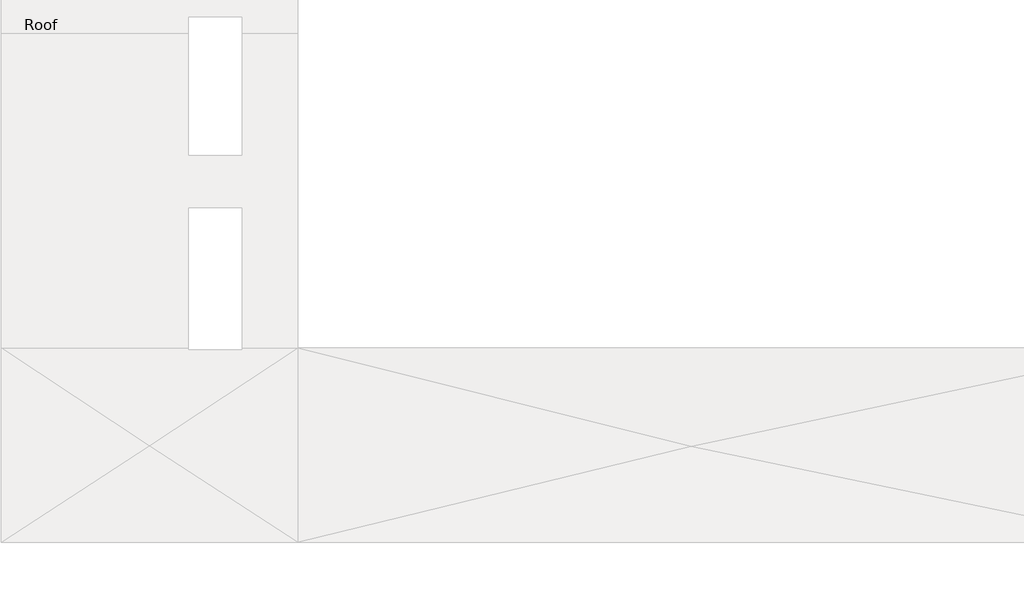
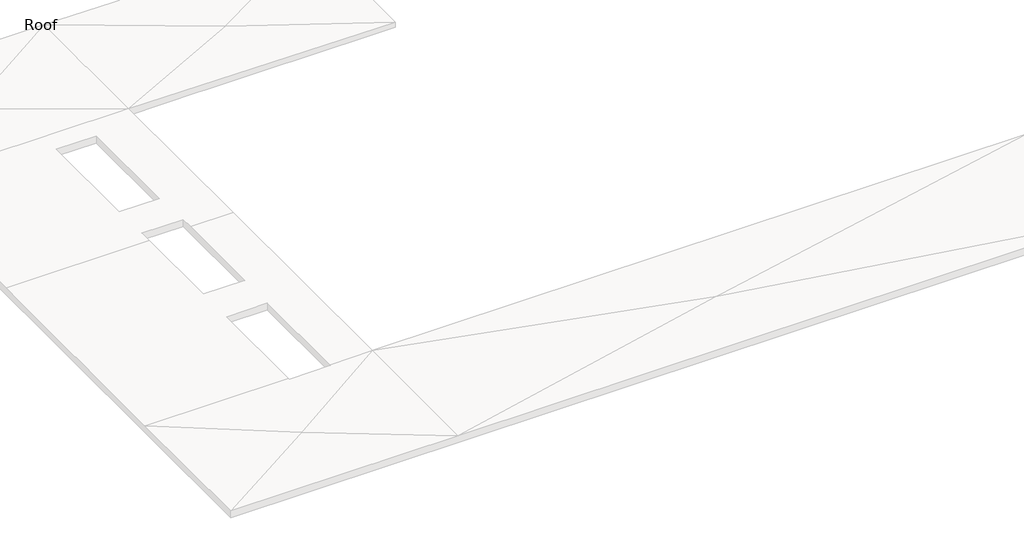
# One storey, part 3 of 7: 17 beams.
"""IFC4 building model written with IfcOpenShell, lengths in millimetres."""

from ifc_helpers import new_model, si_unit, point, frame, frame_2d, origin, place, context, project, spatial, polyline, circle_curve, trimmed, segment, composite_curve, outline, extrude, element, save
from ifc_brep_helpers import plane_surface, revolved_surface, advanced_brep

model = new_model("IFC4")

# Units and contexts
model_context = context("Model", 3, world=origin())
ifc_project = project(units=[si_unit("LENGTHUNIT", "METRE", prefix="MILLI")], contexts=[model_context])

# Site, building, storey
site = spatial("IfcSite", under=ifc_project)
building = spatial("IfcBuilding", under=site)
storey = spatial("IfcBuildingStorey", under=building, Name="Roof", Elevation=11400.0)

# Beams
placement = place(None, origin())
element("IfcBeam", 1, ObjectType="M_Concrete-Rectangular Beam : 400 x 800mm", at=placement, inside=storey, context=model_context, shape_type="AdvancedBrep", body=[
    advanced_brep(
    [(554.8005584, -1310.2837394, 10600.0), (554.8005584, -1310.2837394, 11000.0), (554.8005584, -1213.3613801, 11000.0), (554.8005584, 329.7386199, 11000.0), (554.8005584, 329.7386199, 10600.0), (554.8005584, -1213.3613801, 10600.0), (954.8005584, 426.6609793, 10600.0), (954.8005584, -1213.3613801, 10600.0), (954.8005584, -1310.2837394, 10600.0), (651.7229178, 329.7386199, 10600.0), (954.8005584, 426.6609793, 11000.0), (954.8005584, -1213.3613801, 11000.0), (954.8005584, -1310.2837394, 11000.0), (651.7229178, 329.7386199, 11000.0)],
    [
        (0, 1),
        (1, 2),
        (2, 3),
        (3, 4),
        (4, 5),
        (5, 0),
        (6, 7),
        (7, 8),
        (8, 0, circle_curve(frame((754.8005584, -1413.3613801, 10600.0), z_axis=(0.0, 0.0, 1.0), x_axis=(-1.0, 0.0, 0.0)), 225.0)),
        (4, 9),
        (9, 6, circle_curve(frame((754.8005584, 529.7386199, 10600.0), z_axis=(0.0, 0.0, 1.0), x_axis=(-1.0, 0.0, 0.0)), 225.0)),
        (6, 10),
        (10, 11),
        (11, 12),
        (12, 8),
        (9, 13),
        (13, 10, circle_curve(frame((754.8005584, 529.7386199, 11000.0), z_axis=(0.0, 0.0, 1.0), x_axis=(-1.0, 0.0, 0.0)), 225.0)),
        (12, 1, circle_curve(frame((754.8005584, -1413.3613801, 11000.0), z_axis=(0.0, 0.0, 1.0), x_axis=(-1.0, 0.0, 0.0)), 225.0)),
        (13, 3),
    ],
    [
        plane_surface(frame((554.8005584, -1175.6613801, 11000.0), z_axis=(-1.0, 0.0, 0.0), x_axis=(0.0, 0.0, -1.0))),
        plane_surface(frame((754.8005584, -1175.6613801, 10600.0), z_axis=(0.0, 0.0, -1.0), x_axis=(1.0, 0.0, 0.0))),
        plane_surface(frame((954.8005584, -1175.6613801, 11000.0), z_axis=(1.0, 0.0, 0.0), x_axis=(0.0, 0.0, 1.0))),
        revolved_surface(polyline([(529.8005584, 529.7386199, 11000.0), (529.8005584, 529.7386199, 10600.0)]), (754.8005584, 529.7386199, 7600.0), (0.0, 0.0, 1.0)),
        revolved_surface(polyline([(529.8005584, -1413.3613801, 11000.0), (529.8005584, -1413.3613801, 10600.0)]), (754.8005584, -1413.3613801, 7600.0), (0.0, 0.0, 1.0)),
        plane_surface(frame((27511.8999097, 22114.0407562, 11000.0), z_axis=(0.0, 0.0, 1.0), x_axis=(0.0, -1.0, 0.0))),
        plane_surface(frame((-1649.0994416, 329.7386199, 11000.0), z_axis=(0.0, 1.0, 0.0), x_axis=(0.0, 0.0, 1.0))),
    ],
    [
        (0, [[1, 2, 3, 4, 5, 6]]),
        (1, [[7, 8, 9, -6, -5, 10, 11]]),
        (2, [[-8, -7, 12, 13, 14, 15]]),
        (3, [[-12, -11, 16, 17]]),
        (4, [[-9, -15, 18, -1]]),
        (5, [[-14, -13, -17, 19, -3, -2, -18]]),
        (6, [[-4, -19, -16, -10]]),
    ],
),
])
element("IfcBeam", 2, ObjectType="M_Concrete-Rectangular Beam : 400 x 800mm", at=placement, inside=storey, context=model_context, shape_type="AdvancedBrep", body=[
    advanced_brep(
    [(554.8005584, -1516.4390207, 10600.0), (554.8005584, -1613.3613801, 10600.0), (554.8005584, -5569.4613801, 10600.0), (554.8005584, -5666.3837394, 10600.0), (554.8005584, -5666.3837394, 11000.0), (554.8005584, -5569.4613801, 11000.0), (554.8005584, -1613.3613801, 11000.0), (554.8005584, -1516.4390207, 11000.0), (954.8005584, -5666.3837394, 10600.0), (857.878199, -1613.3613801, 10600.0), (954.8005584, -1613.3613801, 10600.0), (954.8005584, -1613.3613801, 11000.0), (954.8005584, -5666.3837394, 11000.0), (857.878199, -1613.3613801, 11000.0)],
    [
        (0, 1),
        (1, 2),
        (2, 3),
        (3, 4),
        (4, 5),
        (5, 6),
        (6, 7),
        (7, 0),
        (8, 3, circle_curve(frame((754.8005584, -5769.4613801, 10600.0), z_axis=(0.0, 0.0, 1.0), x_axis=(-1.0, 0.0, 0.0)), 225.0)),
        (0, 9, circle_curve(frame((754.8005584, -1413.3613801, 10600.0), z_axis=(0.0, 0.0, 1.0), x_axis=(-1.0, 0.0, 0.0)), 225.0)),
        (9, 10),
        (10, 8),
        (10, 11),
        (11, 12),
        (12, 8),
        (12, 4, circle_curve(frame((754.8005584, -5769.4613801, 11000.0), z_axis=(0.0, 0.0, 1.0), x_axis=(-1.0, 0.0, 0.0)), 225.0)),
        (7, 13, circle_curve(frame((754.8005584, -1413.3613801, 11000.0), z_axis=(0.0, 0.0, 1.0), x_axis=(-1.0, 0.0, 0.0)), 225.0)),
        (13, 9),
        (13, 11),
    ],
    [
        plane_surface(frame((554.8005584, -5531.7613801, 11000.0), z_axis=(-1.0, 0.0, 0.0), x_axis=(0.0, 0.0, -1.0))),
        plane_surface(frame((754.8005584, -5531.7613801, 10600.0), z_axis=(0.0, 0.0, -1.0), x_axis=(1.0, 0.0, 0.0))),
        plane_surface(frame((954.8005584, -5531.7613801, 11000.0), z_axis=(1.0, 0.0, 0.0), x_axis=(0.0, 0.0, 1.0))),
        revolved_surface(polyline([(529.8005584, -5769.4613801, 11000.0), (529.8005584, -5769.4613801, 10600.0)]), (754.8005584, -5769.4613801, 7600.0), (0.0, 0.0, 1.0)),
        revolved_surface(polyline([(529.8005584, -1413.3613801, 11000.0), (529.8005584, -1413.3613801, 10600.0)]), (754.8005584, -1413.3613801, 7600.0), (0.0, 0.0, 1.0)),
        plane_surface(frame((992.5005584, -1613.3613801, 11000.0), z_axis=(0.0, 1.0, 0.0), x_axis=(0.0, 0.0, 1.0))),
        plane_surface(frame((27511.8999097, 22114.0407562, 11000.0), z_axis=(0.0, 0.0, 1.0), x_axis=(0.0, -1.0, 0.0))),
    ],
    [
        (0, [[1, 2, 3, 4, 5, 6, 7, 8]]),
        (1, [[9, -3, -2, -1, 10, 11, 12]]),
        (2, [[-12, 13, 14, 15]]),
        (3, [[-9, -15, 16, -4]]),
        (4, [[-10, -8, 17, 18]]),
        (5, [[-11, -18, 19, -13]]),
        (6, [[-7, -6, -5, -16, -14, -19, -17]]),
    ],
),
])
element("IfcBeam", 3, ObjectType="M_Concrete-Rectangular Beam : 400 x 800mm", at=placement, inside=storey, context=model_context, shape_type="AdvancedBrep", body=[
    advanced_brep(
    [(554.8005584, -11965.5837394, 10600.0), (554.8005584, -11965.5837394, 11000.0), (554.8005584, -11868.6613801, 11000.0), (554.8005584, -5969.4613801, 11000.0), (554.8005584, -5969.4613801, 10600.0), (554.8005584, -11868.6613801, 10600.0), (954.8005584, -5872.5390207, 10600.0), (954.8005584, -11965.5837394, 10600.0), (651.7229178, -5969.4613801, 10600.0), (954.8005584, -5872.5390207, 11000.0), (954.8005584, -11965.5837394, 11000.0), (651.7229178, -5969.4613801, 11000.0)],
    [
        (0, 1),
        (1, 2),
        (2, 3),
        (3, 4),
        (4, 5),
        (5, 0),
        (6, 7),
        (7, 0, circle_curve(frame((754.8005584, -12068.6613801, 10600.0), z_axis=(0.0, 0.0, 1.0), x_axis=(-1.0, 0.0, 0.0)), 225.0)),
        (4, 8),
        (8, 6, circle_curve(frame((754.8005584, -5769.4613801, 10600.0), z_axis=(0.0, 0.0, 1.0), x_axis=(-1.0, 0.0, 0.0)), 225.0)),
        (6, 9),
        (9, 10),
        (10, 7),
        (8, 11),
        (11, 9, circle_curve(frame((754.8005584, -5769.4613801, 11000.0), z_axis=(0.0, 0.0, 1.0), x_axis=(-1.0, 0.0, 0.0)), 225.0)),
        (10, 1, circle_curve(frame((754.8005584, -12068.6613801, 11000.0), z_axis=(0.0, 0.0, 1.0), x_axis=(-1.0, 0.0, 0.0)), 225.0)),
        (11, 3),
    ],
    [
        plane_surface(frame((554.8005584, -11830.9613801, 11000.0), z_axis=(-1.0, 0.0, 0.0), x_axis=(0.0, 0.0, -1.0))),
        plane_surface(frame((754.8005584, -11830.9613801, 10600.0), z_axis=(0.0, 0.0, -1.0), x_axis=(1.0, 0.0, 0.0))),
        plane_surface(frame((954.8005584, -11830.9613801, 11000.0), z_axis=(1.0, 0.0, 0.0), x_axis=(0.0, 0.0, 1.0))),
        revolved_surface(polyline([(529.8005584, -5769.4613801, 11000.0), (529.8005584, -5769.4613801, 10600.0)]), (754.8005584, -5769.4613801, 7600.0), (0.0, 0.0, 1.0)),
        revolved_surface(polyline([(529.8005584, -12068.6613801, 11000.0), (529.8005584, -12068.6613801, 10600.0)]), (754.8005584, -12068.6613801, 7600.0), (0.0, 0.0, 1.0)),
        plane_surface(frame((27511.8999097, 22114.0407562, 11000.0), z_axis=(0.0, 0.0, 1.0), x_axis=(0.0, -1.0, 0.0))),
        plane_surface(frame((-1649.0994416, -5969.4613801, 11000.0), z_axis=(0.0, 1.0, 0.0), x_axis=(0.0, 0.0, 1.0))),
    ],
    [
        (0, [[1, 2, 3, 4, 5, 6]]),
        (1, [[7, 8, -6, -5, 9, 10]]),
        (2, [[-7, 11, 12, 13]]),
        (3, [[-11, -10, 14, 15]]),
        (4, [[-8, -13, 16, -1]]),
        (5, [[-12, -15, 17, -3, -2, -16]]),
        (6, [[-4, -17, -14, -9]]),
    ],
),
])
element("IfcBeam", 4, ObjectType="M_Concrete-Rectangular Beam : 400 x 800mm", at=placement, inside=storey, context=model_context, shape_type="AdvancedBrep", body=[
    advanced_brep(
    [(554.8005584, -15216.7837394, 10600.0), (554.8005584, -15216.7837394, 11000.0), (554.8005584, -15119.8613801, 11000.0), (554.8005584, -12268.6613801, 11000.0), (554.8005584, -12268.6613801, 10600.0), (554.8005584, -15119.8613801, 10600.0), (954.8005584, -12171.7390207, 10600.0), (954.8005584, -15119.8613801, 10600.0), (954.8005584, -15216.7837394, 10600.0), (651.7229178, -12268.6613801, 10600.0), (954.8005584, -12171.7390207, 11000.0), (954.8005584, -15119.8613801, 11000.0), (954.8005584, -15216.7837394, 11000.0), (651.7229178, -12268.6613801, 11000.0)],
    [
        (0, 1),
        (1, 2),
        (2, 3),
        (3, 4),
        (4, 5),
        (5, 0),
        (6, 7),
        (7, 8),
        (8, 0, circle_curve(frame((754.8005584, -15319.8613801, 10600.0), z_axis=(0.0, 0.0, 1.0), x_axis=(-1.0, 0.0, 0.0)), 225.0)),
        (4, 9),
        (9, 6, circle_curve(frame((754.8005584, -12068.6613801, 10600.0), z_axis=(0.0, 0.0, 1.0), x_axis=(-1.0, 0.0, 0.0)), 225.0)),
        (6, 10),
        (10, 11),
        (11, 12),
        (12, 8),
        (9, 13),
        (13, 10, circle_curve(frame((754.8005584, -12068.6613801, 11000.0), z_axis=(0.0, 0.0, 1.0), x_axis=(-1.0, 0.0, 0.0)), 225.0)),
        (12, 1, circle_curve(frame((754.8005584, -15319.8613801, 11000.0), z_axis=(0.0, 0.0, 1.0), x_axis=(-1.0, 0.0, 0.0)), 225.0)),
        (13, 3),
    ],
    [
        plane_surface(frame((554.8005584, -15082.1613801, 11000.0), z_axis=(-1.0, 0.0, 0.0), x_axis=(0.0, 0.0, -1.0))),
        plane_surface(frame((754.8005584, -15082.1613801, 10600.0), z_axis=(0.0, 0.0, -1.0), x_axis=(1.0, 0.0, 0.0))),
        plane_surface(frame((954.8005584, -15082.1613801, 11000.0), z_axis=(1.0, 0.0, 0.0), x_axis=(0.0, 0.0, 1.0))),
        revolved_surface(polyline([(529.8005584, -12068.6613801, 11000.0), (529.8005584, -12068.6613801, 10600.0)]), (754.8005584, -12068.6613801, 7600.0), (0.0, 0.0, 1.0)),
        revolved_surface(polyline([(529.8005584, -15319.8613801, 11000.0), (529.8005584, -15319.8613801, 10600.0)]), (754.8005584, -15319.8613801, 7600.0), (0.0, 0.0, 1.0)),
        plane_surface(frame((27511.8999097, 22114.0407562, 11000.0), z_axis=(0.0, 0.0, 1.0), x_axis=(0.0, -1.0, 0.0))),
        plane_surface(frame((-1649.0994416, -12268.6613801, 11000.0), z_axis=(0.0, 1.0, 0.0), x_axis=(0.0, 0.0, 1.0))),
    ],
    [
        (0, [[1, 2, 3, 4, 5, 6]]),
        (1, [[7, 8, 9, -6, -5, 10, 11]]),
        (2, [[-8, -7, 12, 13, 14, 15]]),
        (3, [[-12, -11, 16, 17]]),
        (4, [[-9, -15, 18, -1]]),
        (5, [[-14, -13, -17, 19, -3, -2, -18]]),
        (6, [[-4, -19, -16, -10]]),
    ],
),
])
element("IfcBeam", 5, ObjectType="M_Concrete-Rectangular Beam : 400 x 800mm", at=placement, inside=storey, context=model_context, shape_type="AdvancedBrep", body=[
    advanced_brep(
    [(6447.6005584, 426.6609793, 10600.0), (6447.6005584, -1213.3613801, 10600.0), (6447.6005584, -1613.3613801, 10600.0), (6447.6005584, -1613.3613801, 11000.0), (6447.6005584, -1213.3613801, 11000.0), (6447.6005584, 426.6609793, 11000.0), (6847.6005584, -1613.3613801, 10600.0), (6847.6005584, 426.6609793, 10600.0), (6847.6005584, 426.6609793, 11000.0), (6847.6005584, -1613.3613801, 11000.0)],
    [
        (0, 1),
        (1, 2),
        (2, 3),
        (3, 4),
        (4, 5),
        (5, 0),
        (6, 2),
        (0, 7, circle_curve(frame((6647.6005584, 529.7386199, 10600.0), z_axis=(0.0, 0.0, 1.0), x_axis=(-1.0, 0.0, 0.0)), 225.0)),
        (7, 6),
        (7, 8),
        (8, 9),
        (9, 6),
        (9, 3),
        (5, 8, circle_curve(frame((6647.6005584, 529.7386199, 11000.0), z_axis=(0.0, 0.0, 1.0), x_axis=(-1.0, 0.0, 0.0)), 225.0)),
    ],
    [
        plane_surface(frame((6447.6005584, -1200.6613801, 11400.0), z_axis=(-1.0, 0.0, 0.0), x_axis=(0.0, 1.0, 0.0))),
        plane_surface(frame((6447.6005584, -1200.6613801, 10600.0), z_axis=(0.0, 0.0, -1.0), x_axis=(0.0, 1.0, 0.0))),
        plane_surface(frame((6847.6005584, -1200.6613801, 10600.0), z_axis=(1.0, 0.0, 0.0), x_axis=(0.0, 1.0, 0.0))),
        plane_surface(frame((6871.5296419, -1613.3613801, 11400.0), z_axis=(0.0, -1.0, 0.0), x_axis=(-1.0, 0.0, 0.0))),
        revolved_surface(polyline([(6422.6005584, 529.7386199, 11000.0), (6422.6005584, 529.7386199, 10600.0)]), (6647.6005584, 529.7386199, 7600.0), (0.0, 0.0, 1.0)),
        plane_surface(frame((27511.8999097, 22114.0407562, 11000.0), z_axis=(0.0, 0.0, 1.0), x_axis=(0.0, -1.0, 0.0))),
    ],
    [
        (0, [[1, 2, 3, 4, 5, 6]]),
        (1, [[7, -2, -1, 8, 9]]),
        (2, [[-9, 10, 11, 12]]),
        (3, [[-7, -12, 13, -3]]),
        (4, [[-8, -6, 14, -10]]),
        (5, [[-5, -4, -13, -11, -14]]),
    ],
),
])
element("IfcBeam", 6, ObjectType="M_Concrete-Rectangular Beam : 400 x 800mm", at=placement, inside=storey, context=model_context, shape_type="SweptSolid", body=[
    extrude(outline(composite_curve([segment(trimmed(circle_curve(frame_2d((6647.6005584, -5769.4613801)), 225.0), [point((6847.6005584, -5666.3837394))], [point((6447.6005584, -5666.3837394))], True, "CARTESIAN"), True, "CONTINUOUS"), segment(polyline([(6447.6005584, -5666.3837394), (6447.6005584, -1613.3613801), (6847.6005584, -1613.3613801), (6847.6005584, -5666.3837394)]), True, "CONTINUOUS")], self_intersect=False)), frame((0.0, 0.0, 10600.0), z_axis=(0.0, 0.0, 1.0), x_axis=(1.0, 0.0, 0.0)), (0.0, 0.0, 1.0), 400.0),
])
element("IfcBeam", 7, ObjectType="M_Concrete-Rectangular Beam : 400 x 800mm", at=placement, inside=storey, context=model_context, shape_type="SweptSolid", body=[
    extrude(outline(composite_curve([segment(trimmed(circle_curve(frame_2d((6647.6005584, -5769.4613801)), 225.0), [point((6447.6005584, -5872.5390207))], [point((6847.6005584, -5872.5390207))], True, "CARTESIAN"), True, "CONTINUOUS"), segment(polyline([(6847.6005584, -5872.5390207), (6847.6005584, -11965.5837394)]), True, "CONTINUOUS"), segment(trimmed(circle_curve(frame_2d((6647.6005584, -12068.6613801)), 225.0), [point((6847.6005584, -11965.5837394))], [point((6447.6005584, -11965.5837394))], True, "CARTESIAN"), True, "CONTINUOUS"), segment(polyline([(6447.6005584, -11965.5837394), (6447.6005584, -5872.5390207)]), True, "CONTINUOUS")], self_intersect=False)), frame((0.0, 0.0, 10600.0), z_axis=(0.0, 0.0, 1.0), x_axis=(1.0, 0.0, 0.0)), (0.0, 0.0, 1.0), 400.0),
])
element("IfcBeam", 8, ObjectType="M_Concrete-Rectangular Beam : 400 x 800mm", at=placement, inside=storey, context=model_context, shape_type="AdvancedBrep", body=[
    advanced_brep(
    [(6447.6005584, -12171.7390207, 10600.0), (6447.6005584, -15119.8613801, 10600.0), (6447.6005584, -15216.7837394, 10600.0), (6447.6005584, -15216.7837394, 11000.0), (6447.6005584, -15119.8613801, 11000.0), (6447.6005584, -12171.7390207, 11000.0), (6847.6005584, -12171.7390207, 10600.0), (6847.6005584, -15119.8613801, 10600.0), (6847.6005584, -15216.7837394, 10600.0), (6847.6005584, -12171.7390207, 11000.0), (6847.6005584, -15119.8613801, 11000.0), (6847.6005584, -15216.7837394, 11000.0)],
    [
        (0, 1),
        (1, 2),
        (2, 3),
        (3, 4),
        (4, 5),
        (5, 0),
        (0, 6, circle_curve(frame((6647.6005584, -12068.6613801, 10600.0), z_axis=(0.0, 0.0, 1.0), x_axis=(-1.0, 0.0, 0.0)), 225.0)),
        (6, 7),
        (7, 8),
        (8, 2, circle_curve(frame((6647.6005584, -15319.8613801, 10600.0), z_axis=(0.0, 0.0, 1.0), x_axis=(-1.0, 0.0, 0.0)), 225.0)),
        (6, 9),
        (9, 10),
        (10, 11),
        (11, 8),
        (5, 9, circle_curve(frame((6647.6005584, -12068.6613801, 11000.0), z_axis=(0.0, 0.0, 1.0), x_axis=(-1.0, 0.0, 0.0)), 225.0)),
        (11, 3, circle_curve(frame((6647.6005584, -15319.8613801, 11000.0), z_axis=(0.0, 0.0, 1.0), x_axis=(-1.0, 0.0, 0.0)), 225.0)),
    ],
    [
        plane_surface(frame((6447.6005584, -15082.1613801, 11000.0), z_axis=(-1.0, 0.0, 0.0), x_axis=(0.0, 0.0, -1.0))),
        plane_surface(frame((6647.6005584, -15082.1613801, 10600.0), z_axis=(0.0, 0.0, -1.0), x_axis=(1.0, 0.0, 0.0))),
        plane_surface(frame((6847.6005584, -15082.1613801, 11000.0), z_axis=(1.0, 0.0, 0.0), x_axis=(0.0, 0.0, 1.0))),
        revolved_surface(polyline([(6422.6005584, -12068.6613801, 11000.0), (6422.6005584, -12068.6613801, 10600.0)]), (6647.6005584, -12068.6613801, 7600.0), (0.0, 0.0, 1.0)),
        revolved_surface(polyline([(6422.6005584, -15319.8613801, 11000.0), (6422.6005584, -15319.8613801, 10600.0)]), (6647.6005584, -15319.8613801, 7600.0), (0.0, 0.0, 1.0)),
        plane_surface(frame((27511.8999097, 22114.0407562, 11000.0), z_axis=(0.0, 0.0, 1.0), x_axis=(0.0, -1.0, 0.0))),
    ],
    [
        (0, [[1, 2, 3, 4, 5, 6]]),
        (1, [[7, 8, 9, 10, -2, -1]]),
        (2, [[-9, -8, 11, 12, 13, 14]]),
        (3, [[-7, -6, 15, -11]]),
        (4, [[-10, -14, 16, -3]]),
        (5, [[-5, -4, -16, -13, -12, -15]]),
    ],
),
])
element("IfcBeam", 9, ObjectType="M_Concrete-Rectangular Beam : 400 x 800mm", at=placement, inside=storey, context=model_context, shape_type="AdvancedBrep", body=[
    advanced_brep(
    [(32350.9229178, -15119.8613801, 10600.0), (32254.0005584, -15119.8613801, 10600.0), (26151.6005584, -15119.8613801, 10600.0), (26054.678199, -15119.8613801, 10600.0), (26054.678199, -15119.8613801, 11000.0), (26151.6005584, -15119.8613801, 11000.0), (32254.0005584, -15119.8613801, 11000.0), (32350.9229178, -15119.8613801, 11000.0), (26151.6005584, -15519.8613801, 10600.0), (26151.6005584, -15422.9390207, 10600.0), (26176.6005584, -15319.8613801, 10600.0), (32229.0005584, -15319.8613801, 10600.0), (32254.0005584, -15422.9390207, 10600.0), (32254.0005584, -15519.8613801, 10600.0), (32254.0005584, -15519.8613801, 11000.0), (26151.6005584, -15519.8613801, 11000.0), (26151.6005584, -15422.9390207, 11000.0), (26176.6005584, -15319.8613801, 11000.0), (32254.0005584, -15422.9390207, 11000.0), (32229.0005584, -15319.8613801, 11000.0)],
    [
        (0, 1),
        (1, 2),
        (2, 3),
        (3, 4),
        (4, 5),
        (5, 6),
        (6, 7),
        (7, 0),
        (8, 9),
        (9, 10, circle_curve(frame((25951.6005584, -15319.8613801, 10600.0), z_axis=(0.0, 0.0, 1.0), x_axis=(-1.0, 0.0, 0.0)), 225.0)),
        (10, 3, circle_curve(frame((25951.6005584, -15319.8613801, 10600.0), z_axis=(0.0, 0.0, 1.0), x_axis=(-1.0, 0.0, 0.0)), 225.0)),
        (0, 11, circle_curve(frame((32454.0005584, -15319.8613801, 10600.0), z_axis=(0.0, 0.0, 1.0), x_axis=(-1.0, 0.0, 0.0)), 225.0)),
        (11, 12, circle_curve(frame((32454.0005584, -15319.8613801, 10600.0), z_axis=(0.0, 0.0, 1.0), x_axis=(-1.0, 0.0, 0.0)), 225.0)),
        (12, 13),
        (13, 8),
        (13, 14),
        (14, 15),
        (15, 8),
        (15, 16),
        (16, 9),
        (16, 17, circle_curve(frame((25951.6005584, -15319.8613801, 11000.0), z_axis=(0.0, 0.0, 1.0), x_axis=(-1.0, 0.0, 0.0)), 225.0)),
        (17, 10),
        (17, 4, circle_curve(frame((25951.6005584, -15319.8613801, 11000.0), z_axis=(0.0, 0.0, 1.0), x_axis=(-1.0, 0.0, 0.0)), 225.0)),
        (12, 18),
        (18, 14),
        (11, 19),
        (19, 18, circle_curve(frame((32454.0005584, -15319.8613801, 11000.0), z_axis=(0.0, 0.0, 1.0), x_axis=(-1.0, 0.0, 0.0)), 225.0)),
        (7, 19, circle_curve(frame((32454.0005584, -15319.8613801, 11000.0), z_axis=(0.0, 0.0, 1.0), x_axis=(-1.0, 0.0, 0.0)), 225.0)),
    ],
    [
        plane_surface(frame((26189.3005584, -15119.8613801, 11000.0), z_axis=(0.0, 1.0, 0.0), x_axis=(0.0, 0.0, -1.0))),
        plane_surface(frame((26189.3005584, -15319.8613801, 10600.0), z_axis=(0.0, 0.0, -1.0), x_axis=(0.0, -1.0, 0.0))),
        plane_surface(frame((26189.3005584, -15519.8613801, 11000.0), z_axis=(0.0, -1.0, 0.0), x_axis=(0.0, 0.0, 1.0))),
        plane_surface(frame((26151.6005584, -22397.3613801, 10600.0), z_axis=(-1.0, 0.0, 0.0), x_axis=(0.0, 1.0, 0.0))),
        revolved_surface(polyline([(25726.6005584, -15319.8613801, 11000.0), (25726.6005584, -15319.8613801, 10600.0)]), (25951.6005584, -15319.8613801, 7600.0), (0.0, 0.0, 1.0)),
        plane_surface(frame((32254.0005584, -22397.3613801, 11400.0), z_axis=(1.0, 0.0, 0.0), x_axis=(0.0, 1.0, 0.0))),
        revolved_surface(polyline([(32229.0005584, -15319.8613801, 11000.0), (32229.0005584, -15319.8613801, 10600.0)]), (32454.0005584, -15319.8613801, 7600.0), (0.0, 0.0, 1.0)),
        plane_surface(frame((27511.8999097, 22114.0407562, 11000.0), z_axis=(0.0, 0.0, 1.0), x_axis=(0.0, -1.0, 0.0))),
    ],
    [
        (0, [[1, 2, 3, 4, 5, 6, 7, 8]]),
        (1, [[9, 10, 11, -3, -2, -1, 12, 13, 14, 15]]),
        (2, [[-15, 16, 17, 18]]),
        (3, [[-9, -18, 19, 20]]),
        (4, [[-10, -20, 21, 22]]),
        (4, [[-11, -22, 23, -4]]),
        (5, [[-14, 24, 25, -16]]),
        (6, [[-13, 26, 27, -24]]),
        (6, [[-12, -8, 28, -26]]),
        (7, [[-7, -6, -5, -23, -21, -19, -17, -25, -27, -28]]),
    ],
),
])
element("IfcBeam", 10, ObjectType="M_Concrete-Rectangular Beam : 400 x 800mm", at=placement, inside=storey, context=model_context, shape_type="AdvancedBrep", body=[
    advanced_brep(
    [(25848.5229178, -15119.8613801, 10600.0), (25751.6005584, -15119.8613801, 10600.0), (19649.2005584, -15119.8613801, 10600.0), (19552.278199, -15119.8613801, 10600.0), (19552.278199, -15119.8613801, 11000.0), (19649.2005584, -15119.8613801, 11000.0), (25751.6005584, -15119.8613801, 11000.0), (25848.5229178, -15119.8613801, 11000.0), (19674.2005584, -15319.8613801, 10600.0), (25726.6005584, -15319.8613801, 10600.0), (25751.6005584, -15422.9390207, 10600.0), (25751.6005584, -15519.8613801, 10600.0), (19649.2005584, -15519.8613801, 10600.0), (19649.2005584, -15422.9390207, 10600.0), (25751.6005584, -15519.8613801, 11000.0), (19649.2005584, -15519.8613801, 11000.0), (19649.2005584, -15422.9390207, 11000.0), (19674.2005584, -15319.8613801, 11000.0), (25751.6005584, -15422.9390207, 11000.0), (25726.6005584, -15319.8613801, 11000.0)],
    [
        (0, 1),
        (1, 2),
        (2, 3),
        (3, 4),
        (4, 5),
        (5, 6),
        (6, 7),
        (7, 0),
        (8, 3, circle_curve(frame((19449.2005584, -15319.8613801, 10600.0), z_axis=(0.0, 0.0, 1.0), x_axis=(-1.0, 0.0, 0.0)), 225.0)),
        (0, 9, circle_curve(frame((25951.6005584, -15319.8613801, 10600.0), z_axis=(0.0, 0.0, 1.0), x_axis=(-1.0, 0.0, 0.0)), 225.0)),
        (9, 10, circle_curve(frame((25951.6005584, -15319.8613801, 10600.0), z_axis=(0.0, 0.0, 1.0), x_axis=(-1.0, 0.0, 0.0)), 225.0)),
        (10, 11),
        (11, 12),
        (12, 13),
        (13, 8, circle_curve(frame((19449.2005584, -15319.8613801, 10600.0), z_axis=(0.0, 0.0, 1.0), x_axis=(-1.0, 0.0, 0.0)), 225.0)),
        (11, 14),
        (14, 15),
        (15, 12),
        (13, 16),
        (16, 17, circle_curve(frame((19449.2005584, -15319.8613801, 11000.0), z_axis=(0.0, 0.0, 1.0), x_axis=(-1.0, 0.0, 0.0)), 225.0)),
        (17, 8),
        (17, 4, circle_curve(frame((19449.2005584, -15319.8613801, 11000.0), z_axis=(0.0, 0.0, 1.0), x_axis=(-1.0, 0.0, 0.0)), 225.0)),
        (10, 18),
        (18, 14),
        (9, 19),
        (19, 18, circle_curve(frame((25951.6005584, -15319.8613801, 11000.0), z_axis=(0.0, 0.0, 1.0), x_axis=(-1.0, 0.0, 0.0)), 225.0)),
        (7, 19, circle_curve(frame((25951.6005584, -15319.8613801, 11000.0), z_axis=(0.0, 0.0, 1.0), x_axis=(-1.0, 0.0, 0.0)), 225.0)),
        (15, 16),
    ],
    [
        plane_surface(frame((19686.9005584, -15119.8613801, 11000.0), z_axis=(0.0, 1.0, 0.0), x_axis=(0.0, 0.0, -1.0))),
        plane_surface(frame((19686.9005584, -15319.8613801, 10600.0), z_axis=(0.0, 0.0, -1.0), x_axis=(0.0, -1.0, 0.0))),
        plane_surface(frame((19686.9005584, -15519.8613801, 11000.0), z_axis=(0.0, -1.0, 0.0), x_axis=(0.0, 0.0, 1.0))),
        revolved_surface(polyline([(19224.2005584, -15319.8613801, 11000.0), (19224.2005584, -15319.8613801, 10600.0)]), (19449.2005584, -15319.8613801, 7600.0), (0.0, 0.0, 1.0)),
        plane_surface(frame((25751.6005584, -22397.3613801, 11400.0), z_axis=(1.0, 0.0, 0.0), x_axis=(0.0, 1.0, 0.0))),
        revolved_surface(polyline([(25726.6005584, -15319.8613801, 11000.0), (25726.6005584, -15319.8613801, 10600.0)]), (25951.6005584, -15319.8613801, 7600.0), (0.0, 0.0, 1.0)),
        plane_surface(frame((19649.2005584, -22397.3613801, 10600.0), z_axis=(-1.0, 0.0, 0.0), x_axis=(0.0, 1.0, 0.0))),
        plane_surface(frame((27511.8999097, 22114.0407562, 11000.0), z_axis=(0.0, 0.0, 1.0), x_axis=(0.0, -1.0, 0.0))),
    ],
    [
        (0, [[1, 2, 3, 4, 5, 6, 7, 8]]),
        (1, [[9, -3, -2, -1, 10, 11, 12, 13, 14, 15]]),
        (2, [[-13, 16, 17, 18]]),
        (3, [[-15, 19, 20, 21]]),
        (3, [[-9, -21, 22, -4]]),
        (4, [[-12, 23, 24, -16]]),
        (5, [[-11, 25, 26, -23]]),
        (5, [[-10, -8, 27, -25]]),
        (6, [[-14, -18, 28, -19]]),
        (7, [[-7, -6, -5, -22, -20, -28, -17, -24, -26, -27]]),
    ],
),
])
element("IfcBeam", 11, ObjectType="M_Concrete-Rectangular Beam : 400 x 800mm", at=placement, inside=storey, context=model_context, shape_type="AdvancedBrep", body=[
    advanced_brep(
    [(19346.1229178, -15119.8613801, 10600.0), (19249.2005584, -15119.8613801, 10600.0), (13146.8005584, -15119.8613801, 10600.0), (13049.878199, -15119.8613801, 10600.0), (13049.878199, -15119.8613801, 11000.0), (13146.8005584, -15119.8613801, 11000.0), (19249.2005584, -15119.8613801, 11000.0), (19346.1229178, -15119.8613801, 11000.0), (13171.8005584, -15319.8613801, 10600.0), (19224.2005584, -15319.8613801, 10600.0), (19249.2005584, -15422.9390207, 10600.0), (19249.2005584, -15519.8613801, 10600.0), (13146.8005584, -15519.8613801, 10600.0), (13146.8005584, -15422.9390207, 10600.0), (19249.2005584, -15519.8613801, 11000.0), (13146.8005584, -15519.8613801, 11000.0), (13146.8005584, -15422.9390207, 11000.0), (13171.8005584, -15319.8613801, 11000.0), (19249.2005584, -15422.9390207, 11000.0), (19224.2005584, -15319.8613801, 11000.0)],
    [
        (0, 1),
        (1, 2),
        (2, 3),
        (3, 4),
        (4, 5),
        (5, 6),
        (6, 7),
        (7, 0),
        (8, 3, circle_curve(frame((12946.8005584, -15319.8613801, 10600.0), z_axis=(0.0, 0.0, 1.0), x_axis=(-1.0, 0.0, 0.0)), 225.0)),
        (0, 9, circle_curve(frame((19449.2005584, -15319.8613801, 10600.0), z_axis=(0.0, 0.0, 1.0), x_axis=(-1.0, 0.0, 0.0)), 225.0)),
        (9, 10, circle_curve(frame((19449.2005584, -15319.8613801, 10600.0), z_axis=(0.0, 0.0, 1.0), x_axis=(-1.0, 0.0, 0.0)), 225.0)),
        (10, 11),
        (11, 12),
        (12, 13),
        (13, 8, circle_curve(frame((12946.8005584, -15319.8613801, 10600.0), z_axis=(0.0, 0.0, 1.0), x_axis=(-1.0, 0.0, 0.0)), 225.0)),
        (11, 14),
        (14, 15),
        (15, 12),
        (13, 16),
        (16, 17, circle_curve(frame((12946.8005584, -15319.8613801, 11000.0), z_axis=(0.0, 0.0, 1.0), x_axis=(-1.0, 0.0, 0.0)), 225.0)),
        (17, 8),
        (17, 4, circle_curve(frame((12946.8005584, -15319.8613801, 11000.0), z_axis=(0.0, 0.0, 1.0), x_axis=(-1.0, 0.0, 0.0)), 225.0)),
        (10, 18),
        (18, 14),
        (9, 19),
        (19, 18, circle_curve(frame((19449.2005584, -15319.8613801, 11000.0), z_axis=(0.0, 0.0, 1.0), x_axis=(-1.0, 0.0, 0.0)), 225.0)),
        (7, 19, circle_curve(frame((19449.2005584, -15319.8613801, 11000.0), z_axis=(0.0, 0.0, 1.0), x_axis=(-1.0, 0.0, 0.0)), 225.0)),
        (15, 16),
    ],
    [
        plane_surface(frame((13184.5005584, -15119.8613801, 11000.0), z_axis=(0.0, 1.0, 0.0), x_axis=(0.0, 0.0, -1.0))),
        plane_surface(frame((13184.5005584, -15319.8613801, 10600.0), z_axis=(0.0, 0.0, -1.0), x_axis=(0.0, -1.0, 0.0))),
        plane_surface(frame((13184.5005584, -15519.8613801, 11000.0), z_axis=(0.0, -1.0, 0.0), x_axis=(0.0, 0.0, 1.0))),
        revolved_surface(polyline([(12721.8005584, -15319.8613801, 11000.0), (12721.8005584, -15319.8613801, 10600.0)]), (12946.8005584, -15319.8613801, 7600.0), (0.0, 0.0, 1.0)),
        plane_surface(frame((19249.2005584, -22397.3613801, 11400.0), z_axis=(1.0, 0.0, 0.0), x_axis=(0.0, 1.0, 0.0))),
        revolved_surface(polyline([(19224.2005584, -15319.8613801, 11000.0), (19224.2005584, -15319.8613801, 10600.0)]), (19449.2005584, -15319.8613801, 7600.0), (0.0, 0.0, 1.0)),
        plane_surface(frame((13146.8005584, -22397.3613801, 10600.0), z_axis=(-1.0, 0.0, 0.0), x_axis=(0.0, 1.0, 0.0))),
        plane_surface(frame((27511.8999097, 22114.0407562, 11000.0), z_axis=(0.0, 0.0, 1.0), x_axis=(0.0, -1.0, 0.0))),
    ],
    [
        (0, [[1, 2, 3, 4, 5, 6, 7, 8]]),
        (1, [[9, -3, -2, -1, 10, 11, 12, 13, 14, 15]]),
        (2, [[-13, 16, 17, 18]]),
        (3, [[-15, 19, 20, 21]]),
        (3, [[-9, -21, 22, -4]]),
        (4, [[-12, 23, 24, -16]]),
        (5, [[-11, 25, 26, -23]]),
        (5, [[-10, -8, 27, -25]]),
        (6, [[-14, -18, 28, -19]]),
        (7, [[-7, -6, -5, -22, -20, -28, -17, -24, -26, -27]]),
    ],
),
])
element("IfcBeam", 12, ObjectType="M_Concrete-Rectangular Beam : 400 x 800mm", at=placement, inside=storey, context=model_context, shape_type="AdvancedBrep", body=[
    advanced_brep(
    [(12843.7229178, -15119.8613801, 10600.0), (12746.8005584, -15119.8613801, 10600.0), (6847.6005584, -15119.8613801, 10600.0), (6847.6005584, -15119.8613801, 11000.0), (12746.8005584, -15119.8613801, 11000.0), (12843.7229178, -15119.8613801, 11000.0), (6847.6005584, -15216.7837394, 10600.0), (12721.8005584, -15319.8613801, 10600.0), (12746.8005584, -15422.9390207, 10600.0), (12746.8005584, -15519.8613801, 10600.0), (6847.6005584, -15519.8613801, 10600.0), (6750.678199, -15519.8613801, 10600.0), (6872.6005584, -15319.8613801, 10600.0), (12746.8005584, -15519.8613801, 11000.0), (6847.6005584, -15519.8613801, 11000.0), (6750.678199, -15519.8613801, 11000.0), (6847.6005584, -15216.7837394, 11000.0), (6872.6005584, -15319.8613801, 11000.0), (12746.8005584, -15422.9390207, 11000.0), (12721.8005584, -15319.8613801, 11000.0)],
    [
        (0, 1),
        (1, 2),
        (2, 3),
        (3, 4),
        (4, 5),
        (5, 0),
        (6, 2),
        (0, 7, circle_curve(frame((12946.8005584, -15319.8613801, 10600.0), z_axis=(0.0, 0.0, 1.0), x_axis=(-1.0, 0.0, 0.0)), 225.0)),
        (7, 8, circle_curve(frame((12946.8005584, -15319.8613801, 10600.0), z_axis=(0.0, 0.0, 1.0), x_axis=(-1.0, 0.0, 0.0)), 225.0)),
        (8, 9),
        (9, 10),
        (10, 11),
        (11, 12, circle_curve(frame((6647.6005584, -15319.8613801, 10600.0), z_axis=(0.0, 0.0, 1.0), x_axis=(-1.0, 0.0, 0.0)), 225.0)),
        (12, 6, circle_curve(frame((6647.6005584, -15319.8613801, 10600.0), z_axis=(0.0, 0.0, 1.0), x_axis=(-1.0, 0.0, 0.0)), 225.0)),
        (9, 13),
        (13, 14),
        (14, 15),
        (15, 11),
        (6, 16),
        (16, 3),
        (15, 17, circle_curve(frame((6647.6005584, -15319.8613801, 11000.0), z_axis=(0.0, 0.0, 1.0), x_axis=(-1.0, 0.0, 0.0)), 225.0)),
        (17, 12),
        (17, 16, circle_curve(frame((6647.6005584, -15319.8613801, 11000.0), z_axis=(0.0, 0.0, 1.0), x_axis=(-1.0, 0.0, 0.0)), 225.0)),
        (8, 18),
        (18, 13),
        (7, 19),
        (19, 18, circle_curve(frame((12946.8005584, -15319.8613801, 11000.0), z_axis=(0.0, 0.0, 1.0), x_axis=(-1.0, 0.0, 0.0)), 225.0)),
        (5, 19, circle_curve(frame((12946.8005584, -15319.8613801, 11000.0), z_axis=(0.0, 0.0, 1.0), x_axis=(-1.0, 0.0, 0.0)), 225.0)),
    ],
    [
        plane_surface(frame((6885.3005584, -15119.8613801, 11000.0), z_axis=(0.0, 1.0, 0.0), x_axis=(0.0, 0.0, -1.0))),
        plane_surface(frame((6885.3005584, -15319.8613801, 10600.0), z_axis=(0.0, 0.0, -1.0), x_axis=(0.0, -1.0, 0.0))),
        plane_surface(frame((6885.3005584, -15519.8613801, 11000.0), z_axis=(0.0, -1.0, 0.0), x_axis=(0.0, 0.0, 1.0))),
        plane_surface(frame((6847.6005584, -15082.1613801, 11000.0), z_axis=(-1.0, 0.0, 0.0), x_axis=(0.0, 0.0, 1.0))),
        revolved_surface(polyline([(6422.6005584, -15319.8613801, 11000.0), (6422.6005584, -15319.8613801, 10600.0)]), (6647.6005584, -15319.8613801, 7600.0), (0.0, 0.0, 1.0)),
        plane_surface(frame((12746.8005584, -22397.3613801, 11400.0), z_axis=(1.0, 0.0, 0.0), x_axis=(0.0, 1.0, 0.0))),
        revolved_surface(polyline([(12721.8005584, -15319.8613801, 11000.0), (12721.8005584, -15319.8613801, 10600.0)]), (12946.8005584, -15319.8613801, 7600.0), (0.0, 0.0, 1.0)),
        plane_surface(frame((27511.8999097, 22114.0407562, 11000.0), z_axis=(0.0, 0.0, 1.0), x_axis=(0.0, -1.0, 0.0))),
    ],
    [
        (0, [[1, 2, 3, 4, 5, 6]]),
        (1, [[7, -2, -1, 8, 9, 10, 11, 12, 13, 14]]),
        (2, [[-12, -11, 15, 16, 17, 18]]),
        (3, [[-7, 19, 20, -3]]),
        (4, [[-13, -18, 21, 22]]),
        (4, [[-14, -22, 23, -19]]),
        (5, [[-10, 24, 25, -15]]),
        (6, [[-9, 26, 27, -24]]),
        (6, [[-8, -6, 28, -26]]),
        (7, [[-5, -4, -20, -23, -21, -17, -16, -25, -27, -28]]),
    ],
),
])
element("IfcBeam", 13, ObjectType="M_Concrete-Rectangular Beam : 400 x 800mm", at=placement, inside=storey, context=model_context, shape_type="SweptSolid", body=[
    extrude(outline(composite_curve([segment(polyline([(32654.0005584, -22531.9837394), (32654.0005584, -22435.0613801), (38756.4005584, -22435.0613801), (38756.4005584, -22531.9837394)]), True, "CONTINUOUS"), segment(trimmed(circle_curve(frame_2d((38956.4005584, -22635.0613801)), 225.0), [point((38756.4005584, -22531.9837394))], [point((38731.4005584, -22635.0613801))], True, "CARTESIAN"), True, "CONTINUOUS"), segment(trimmed(circle_curve(frame_2d((38956.4005584, -22635.0613801)), 225.0), [point((38731.4005584, -22635.0613801))], [point((38853.3229178, -22835.0613801))], True, "CARTESIAN"), True, "CONTINUOUS"), segment(polyline([(38853.3229178, -22835.0613801), (32557.078199, -22835.0613801)]), True, "CONTINUOUS"), segment(trimmed(circle_curve(frame_2d((32454.0005584, -22635.0613801)), 225.0), [point((32557.078199, -22835.0613801))], [point((32679.0005584, -22635.0613801))], True, "CARTESIAN"), True, "CONTINUOUS"), segment(trimmed(circle_curve(frame_2d((32454.0005584, -22635.0613801)), 225.0), [point((32679.0005584, -22635.0613801))], [point((32654.0005584, -22531.9837394))], True, "CARTESIAN"), True, "CONTINUOUS")], self_intersect=False)), frame((0.0, 0.0, 10600.0), z_axis=(0.0, 0.0, 1.0), x_axis=(1.0, 0.0, 0.0)), (0.0, 0.0, 1.0), 400.0),
])
element("IfcBeam", 14, ObjectType="M_Concrete-Rectangular Beam : 400 x 800mm", at=placement, inside=storey, context=model_context, shape_type="AdvancedBrep", body=[
    advanced_brep(
    [(6447.6005584, -1213.3613801, 10600.0), (954.8005584, -1213.3613801, 10600.0), (954.8005584, -1213.3613801, 11000.0), (1065.5703938, -1213.3613801, 11000.0), (4175.4703938, -1213.3613801, 11000.0), (6447.6005584, -1213.3613801, 11000.0), (857.878199, -1613.3613801, 10600.0), (979.8005584, -1413.3613801, 10600.0), (954.8005584, -1310.2837394, 10600.0), (6447.6005584, -1613.3613801, 10600.0), (954.8005584, -1613.3613801, 10600.0), (6447.6005584, -1613.3613801, 11000.0), (954.8005584, -1613.3613801, 11000.0), (857.878199, -1613.3613801, 11000.0), (979.8005584, -1413.3613801, 11000.0), (954.8005584, -1310.2837394, 11000.0)],
    [
        (0, 1),
        (1, 2),
        (2, 3),
        (3, 4),
        (4, 5),
        (5, 0),
        (6, 7, circle_curve(frame((754.8005584, -1413.3613801, 10600.0), z_axis=(0.0, 0.0, 1.0), x_axis=(-1.0, 0.0, 0.0)), 225.0)),
        (7, 8, circle_curve(frame((754.8005584, -1413.3613801, 10600.0), z_axis=(0.0, 0.0, 1.0), x_axis=(-1.0, 0.0, 0.0)), 225.0)),
        (8, 1),
        (0, 9),
        (9, 10),
        (10, 6),
        (9, 11),
        (11, 12),
        (12, 13),
        (13, 6),
        (13, 14, circle_curve(frame((754.8005584, -1413.3613801, 11000.0), z_axis=(0.0, 0.0, 1.0), x_axis=(-1.0, 0.0, 0.0)), 225.0)),
        (14, 7),
        (14, 15, circle_curve(frame((754.8005584, -1413.3613801, 11000.0), z_axis=(0.0, 0.0, 1.0), x_axis=(-1.0, 0.0, 0.0)), 225.0)),
        (15, 8),
        (15, 2),
        (5, 11),
    ],
    [
        plane_surface(frame((992.5005584, -1213.3613801, 11000.0), z_axis=(0.0, 1.0, 0.0), x_axis=(0.0, 0.0, -1.0))),
        plane_surface(frame((992.5005584, -1413.3613801, 10600.0), z_axis=(0.0, 0.0, -1.0), x_axis=(0.0, -1.0, 0.0))),
        plane_surface(frame((992.5005584, -1613.3613801, 11000.0), z_axis=(0.0, -1.0, 0.0), x_axis=(0.0, 0.0, 1.0))),
        revolved_surface(polyline([(529.8005584, -1413.3613801, 11000.0), (529.8005584, -1413.3613801, 10600.0)]), (754.8005584, -1413.3613801, 7600.0), (0.0, 0.0, 1.0)),
        plane_surface(frame((954.8005584, -1175.6613801, 11000.0), z_axis=(-1.0, 0.0, 0.0), x_axis=(0.0, 0.0, 1.0))),
        plane_surface(frame((6447.6005584, -1200.6613801, 11400.0), z_axis=(1.0, 0.0, 0.0), x_axis=(0.0, 1.0, 0.0))),
        plane_surface(frame((27511.8999097, 22114.0407562, 11000.0), z_axis=(0.0, 0.0, 1.0), x_axis=(0.0, -1.0, 0.0))),
    ],
    [
        (0, [[1, 2, 3, 4, 5, 6]]),
        (1, [[7, 8, 9, -1, 10, 11, 12]]),
        (2, [[-12, -11, 13, 14, 15, 16]]),
        (3, [[-7, -16, 17, 18]]),
        (3, [[-8, -18, 19, 20]]),
        (4, [[-9, -20, 21, -2]]),
        (5, [[-10, -6, 22, -13]]),
        (6, [[-3, -21, -19, -17, -15, -14, -22, -5, -4]]),
    ],
),
])
element("IfcBeam", 15, ObjectType="M_Concrete-Rectangular Beam : 400 x 800mm", at=placement, inside=storey, context=model_context, shape_type="SweptSolid", body=[
    extrude(outline(composite_curve([segment(polyline([(12746.8005584, -12296.3611817), (13146.8005584, -12296.3611817), (13146.8005584, -15119.8613801), (13049.878199, -15119.8613801)]), True, "CONTINUOUS"), segment(trimmed(circle_curve(frame_2d((12946.8005584, -15319.8613801)), 225.0), [point((13049.878199, -15119.8613801))], [point((12843.7229178, -15119.8613801))], True, "CARTESIAN"), True, "CONTINUOUS"), segment(polyline([(12843.7229178, -15119.8613801), (12746.8005584, -15119.8613801), (12746.8005584, -12296.3611817)]), True, "CONTINUOUS")], self_intersect=False)), frame((0.0, 0.0, 10600.0), z_axis=(0.0, 0.0, 1.0), x_axis=(1.0, 0.0, 0.0)), (0.0, 0.0, 1.0), 400.0),
])
element("IfcBeam", 16, ObjectType="M_Concrete-Rectangular Beam : 400 x 800mm", at=placement, inside=storey, context=model_context, shape_type="SweptSolid", body=[
    extrude(outline(composite_curve([segment(polyline([(19249.2005584, -12296.3611817), (19649.2005584, -12296.3611817), (19649.2005584, -15119.8613801), (19552.278199, -15119.8613801)]), True, "CONTINUOUS"), segment(trimmed(circle_curve(frame_2d((19449.2005584, -15319.8613801)), 225.0), [point((19552.278199, -15119.8613801))], [point((19346.1229178, -15119.8613801))], True, "CARTESIAN"), True, "CONTINUOUS"), segment(polyline([(19346.1229178, -15119.8613801), (19249.2005584, -15119.8613801), (19249.2005584, -12296.3611817)]), True, "CONTINUOUS")], self_intersect=False)), frame((0.0, 0.0, 10600.0), z_axis=(0.0, 0.0, 1.0), x_axis=(1.0, 0.0, 0.0)), (0.0, 0.0, 1.0), 400.0),
])
element("IfcBeam", 17, ObjectType="M_Concrete-Rectangular Beam : 400 x 800mm", at=placement, inside=storey, context=model_context, shape_type="SweptSolid", body=[
    extrude(outline(composite_curve([segment(polyline([(25751.6005584, -12296.3611817), (26151.6005584, -12296.3611817), (26151.6005584, -15119.8613801), (26054.678199, -15119.8613801)]), True, "CONTINUOUS"), segment(trimmed(circle_curve(frame_2d((25951.6005584, -15319.8613801)), 225.0), [point((26054.678199, -15119.8613801))], [point((25848.5229178, -15119.8613801))], True, "CARTESIAN"), True, "CONTINUOUS"), segment(polyline([(25848.5229178, -15119.8613801), (25751.6005584, -15119.8613801), (25751.6005584, -12296.3611817)]), True, "CONTINUOUS")], self_intersect=False)), frame((0.0, 0.0, 10600.0), z_axis=(0.0, 0.0, 1.0), x_axis=(1.0, 0.0, 0.0)), (0.0, 0.0, 1.0), 400.0),
])

save(model, "model.ifc")
